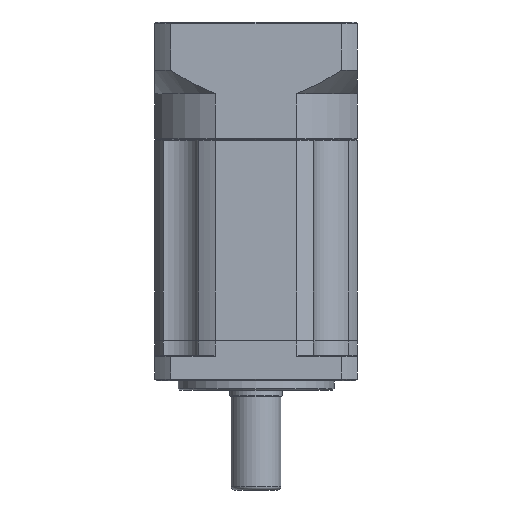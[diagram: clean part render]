
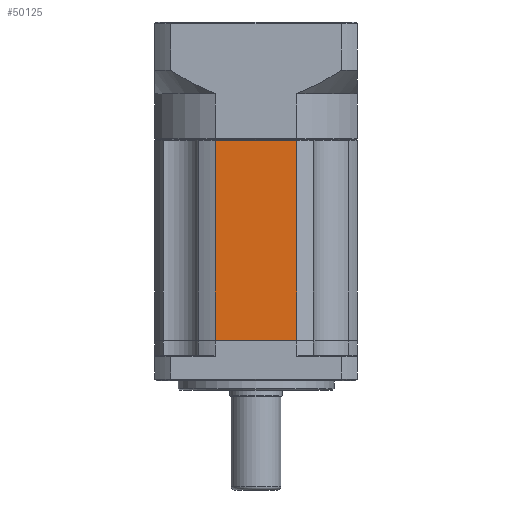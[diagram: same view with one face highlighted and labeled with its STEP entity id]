
A CAD part, front view. The second image highlights one B-rep face of the part: STEP entity #50125.
In plain terms, the highlighted planar face has unit normal (0, -1, 0).
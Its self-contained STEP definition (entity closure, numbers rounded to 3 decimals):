
#2612 = VERTEX_POINT ( 'NONE', #56658 ) ;
#8312 = VERTEX_POINT ( 'NONE', #55746 ) ;
#10462 = EDGE_CURVE ( 'NONE', #2612, #80470, #36589, .T. ) ;
#13796 = FACE_OUTER_BOUND ( 'NONE', #104385, .T. ) ;
#19015 = DIRECTION ( 'NONE',  ( 1., 0., 0. ) ) ;
#19039 = LINE ( 'NONE', #37126, #82209 ) ;
#20567 = CARTESIAN_POINT ( 'NONE',  ( 33.2, -33.003, 46.103 ) ) ;
#23221 = AXIS2_PLACEMENT_3D ( 'NONE', #20567, #78238, #29036 ) ;
#28089 = CARTESIAN_POINT ( 'NONE',  ( 7.22, -33.003, 46.103 ) ) ;
#28682 = DIRECTION ( 'NONE',  ( 0., 0., -1. ) ) ;
#29036 = DIRECTION ( 'NONE',  ( 0., 0., 1. ) ) ;
#32215 = EDGE_CURVE ( 'NONE', #8312, #80470, #19039, .T. ) ;
#33523 = VECTOR ( 'NONE', #92145, 1000. ) ;
#34926 = EDGE_CURVE ( 'NONE', #37704, #8312, #69752, .T. ) ;
#35717 = EDGE_CURVE ( 'NONE', #2612, #37704, #96241, .T. ) ;
#36078 = VECTOR ( 'NONE', #59529, 1000. ) ;
#36589 = LINE ( 'NONE', #58245, #36078 ) ;
#37126 = CARTESIAN_POINT ( 'NONE',  ( 33.2, -33.003, -18.197 ) ) ;
#37704 = VERTEX_POINT ( 'NONE', #79394 ) ;
#39892 = ORIENTED_EDGE ( 'NONE', *, *, #32215, .T. ) ;
#44155 = ORIENTED_EDGE ( 'NONE', *, *, #10462, .F. ) ;
#45067 = ORIENTED_EDGE ( 'NONE', *, *, #35717, .T. ) ;
#48471 = ORIENTED_EDGE ( 'NONE', *, *, #34926, .T. ) ;
#50125 = ADVANCED_FACE ( 'NONE', ( #13796 ), #94223, .F. ) ;
#55746 = CARTESIAN_POINT ( 'NONE',  ( 7.22, -33.003, -18.197 ) ) ;
#56658 = CARTESIAN_POINT ( 'NONE',  ( 33.2, -33.003, 45.903 ) ) ;
#58245 = CARTESIAN_POINT ( 'NONE',  ( 33.2, -33.003, 46.103 ) ) ;
#59529 = DIRECTION ( 'NONE',  ( 0., 0., -1. ) ) ;
#69286 = CARTESIAN_POINT ( 'NONE',  ( 33.2, -33.003, -18.197 ) ) ;
#69752 = LINE ( 'NONE', #28089, #88883 ) ;
#78238 = DIRECTION ( 'NONE',  ( 0., 1., 0. ) ) ;
#79394 = CARTESIAN_POINT ( 'NONE',  ( 7.22, -33.003, 45.903 ) ) ;
#80470 = VERTEX_POINT ( 'NONE', #69286 ) ;
#82209 = VECTOR ( 'NONE', #19015, 1000. ) ;
#88883 = VECTOR ( 'NONE', #28682, 1000. ) ;
#90872 = CARTESIAN_POINT ( 'NONE',  ( 7.22, -33.003, 45.903 ) ) ;
#92145 = DIRECTION ( 'NONE',  ( -1., 0., 0. ) ) ;
#94223 = PLANE ( 'NONE',  #23221 ) ;
#96241 = LINE ( 'NONE', #90872, #33523 ) ;
#104385 = EDGE_LOOP ( 'NONE', ( #44155, #45067, #48471, #39892 ) ) ;
